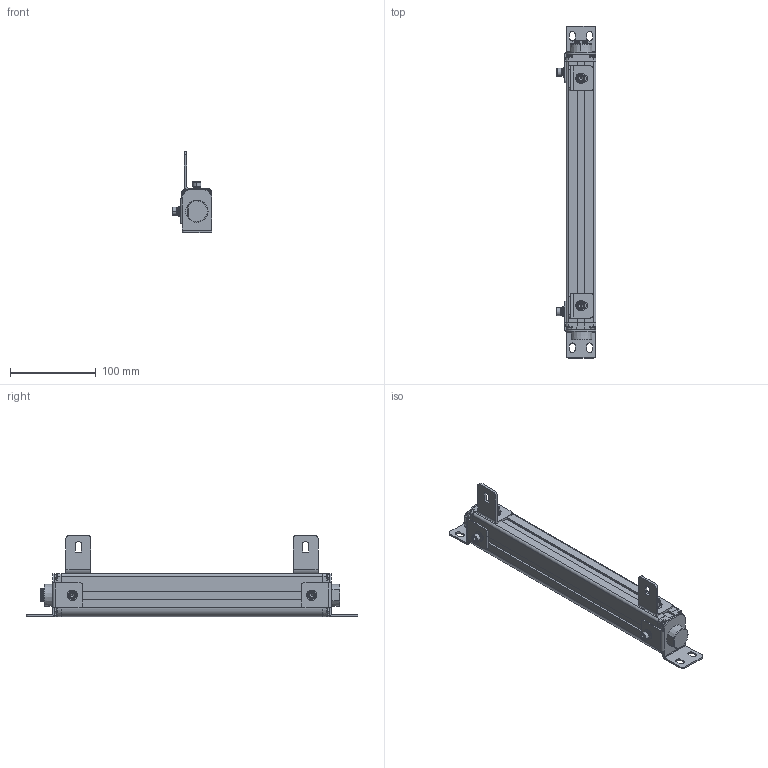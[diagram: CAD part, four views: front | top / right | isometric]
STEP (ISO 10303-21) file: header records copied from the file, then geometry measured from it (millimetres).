
FILE_DESCRIPTION((''),'2;1');
FILE_NAME('ESN--000_ASM','2021-08-10T21:12:36',('18720616900'),(''),'CREO PARAMETRIC BY PTC INC, 2019010','CREO PARAMETRIC BY PTC INC, 2019010','');
FILE_SCHEMA(('CONFIG_CONTROL_DESIGN'));
Length unit declared in the file: millimetre
Products named in the file (22): 00; 000; _0001; 4000; 4--0001; ESN_40001_ASM; L10001; M6-8--0001; M6-1--00; M6-1-00; M6-80001_ASM; L1--0001_ASM; _0002; 0005; ST-3-120001; H1--000; H1--0001_ASM; H1--0003_ASM; ESN--000_ASM
Assembly tree (34 placements, depth 4):
  ESN--000_ASM
    00
    000
    _0001
    000
    ESN_40001_ASM
      4000
      4--0001  x4
    L1--0001_ASM  x2
      L10001
      M6-80001_ASM
        M6-8--0001
        M6-1--00
        M6-1-00
        00
    _0002
    0005
    ST-3-120001  x8
    H1--0001_ASM
      H1--000
      M6-80001_ASM
        M6-8--0001
        M6-1--00
        M6-1-00
        00
    H1--0003_ASM
      H1--000
      M6-80001_ASM
        M6-8--0001
        M6-1--00
        M6-1-00
        00
Bounding box: 46.5 x 387 x 94.95 mm (x, y, z)
Volume: 519819.6 mm3; surface area: 135450.9 mm2
Topology: 39 solids, 39 shells, 1727 faces, 4555 edges, 2925 vertices
Faces by surface type: plane 541, cylinder 404, bspline 362, cone 291, torus 105, sphere 24
Entity records: 45714 total; most frequent: CARTESIAN_POINT 24222, ORIENTED_EDGE 4766, DIRECTION 3842, EDGE_CURVE 2383, VERTEX_POINT 1546, AXIS2_PLACEMENT_3D 1400, VECTOR 1042, LINE 1042
